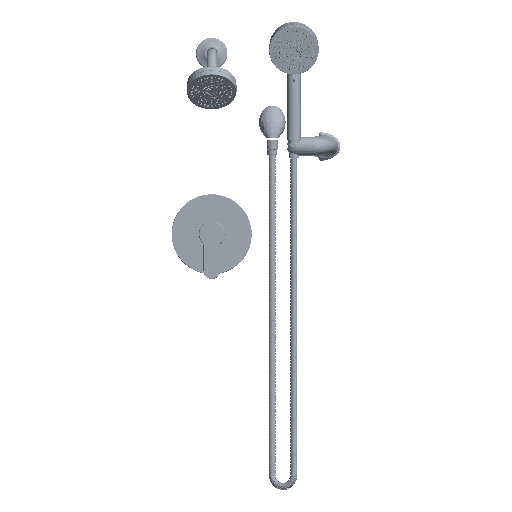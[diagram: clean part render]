
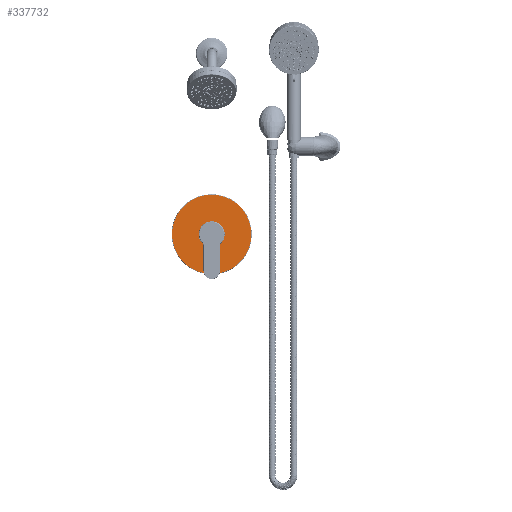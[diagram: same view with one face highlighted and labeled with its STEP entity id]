
A CAD part, top view. The second image highlights one B-rep face of the part: STEP entity #337732.
In plain terms, the highlighted planar face has unit normal (0, 0, 1).
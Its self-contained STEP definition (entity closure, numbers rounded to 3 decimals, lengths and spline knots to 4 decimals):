
#4974 = DIRECTION ( 'NONE',  ( 1., 0., 0. ) ) ;
#7506 = AXIS2_PLACEMENT_3D ( 'NONE', #191846, #298788, #56000 ) ;
#11723 = ORIENTED_EDGE ( 'NONE', *, *, #354908, .T. ) ;
#11799 = AXIS2_PLACEMENT_3D ( 'NONE', #115531, #64760, #4974 ) ;
#14279 = EDGE_LOOP ( 'NONE', ( #88251, #181864, #178228, #223493 ) ) ;
#39667 = FACE_BOUND ( 'NONE', #14279, .T. ) ;
#43212 = LINE ( 'NONE', #101169, #49355 ) ;
#49355 = VECTOR ( 'NONE', #150137, 39.3701 ) ;
#56000 = DIRECTION ( 'NONE',  ( 1., 0., 0. ) ) ;
#64760 = DIRECTION ( 'NONE',  ( 0., 0., 1. ) ) ;
#65924 = EDGE_CURVE ( 'NONE', #259164, #282145, #293227, .T. ) ;
#66091 = CIRCLE ( 'NONE', #164337, 3.1306 ) ;
#66873 = DIRECTION ( 'NONE',  ( 0., 0., 1. ) ) ;
#70438 = CARTESIAN_POINT ( 'NONE',  ( 1.9687, 3.7325, 5.2986 ) ) ;
#82253 = CARTESIAN_POINT ( 'NONE',  ( 1.8412, 2.4625, 5.2986 ) ) ;
#86419 = EDGE_CURVE ( 'NONE', #282145, #334782, #303284, .T. ) ;
#88251 = ORIENTED_EDGE ( 'NONE', *, *, #86419, .F. ) ;
#101169 = CARTESIAN_POINT ( 'NONE',  ( 2.0962, 2.4625, 5.2986 ) ) ;
#101732 = CARTESIAN_POINT ( 'NONE',  ( 1.9687, 3.7325, 5.2986 ) ) ;
#115531 = CARTESIAN_POINT ( 'NONE',  ( 1.9687, 2.4625, 5.2986 ) ) ;
#138374 = VECTOR ( 'NONE', #162027, 39.3701 ) ;
#140896 = DIRECTION ( 'NONE',  ( 0., 0., 1. ) ) ;
#150137 = DIRECTION ( 'NONE',  ( 0., 1., 0. ) ) ;
#150159 = DIRECTION ( 'NONE',  ( 1., 0., 0. ) ) ;
#150648 = CIRCLE ( 'NONE', #11799, 0.1275 ) ;
#160983 = CARTESIAN_POINT ( 'NONE',  ( -1.162, 3.7325, 5.2986 ) ) ;
#162027 = DIRECTION ( 'NONE',  ( 0., -1., 0. ) ) ;
#164337 = AXIS2_PLACEMENT_3D ( 'NONE', #101732, #349789, #212138 ) ;
#165150 = EDGE_CURVE ( 'NONE', #345451, #274112, #175342, .T. ) ;
#170018 = ORIENTED_EDGE ( 'NONE', *, *, #165150, .T. ) ;
#174019 = CARTESIAN_POINT ( 'NONE',  ( 1.8412, 2.715, 5.2986 ) ) ;
#175342 = CIRCLE ( 'NONE', #7506, 3.1306 ) ;
#178228 = ORIENTED_EDGE ( 'NONE', *, *, #315303, .F. ) ;
#179080 = FACE_OUTER_BOUND ( 'NONE', #184959, .T. ) ;
#181864 = ORIENTED_EDGE ( 'NONE', *, *, #65924, .F. ) ;
#184959 = EDGE_LOOP ( 'NONE', ( #11723, #170018 ) ) ;
#191846 = CARTESIAN_POINT ( 'NONE',  ( 1.9687, 3.7325, 5.2986 ) ) ;
#206251 = PLANE ( 'NONE',  #261031 ) ;
#212138 = DIRECTION ( 'NONE',  ( 1., 0., 0. ) ) ;
#223493 = ORIENTED_EDGE ( 'NONE', *, *, #333260, .F. ) ;
#241236 = AXIS2_PLACEMENT_3D ( 'NONE', #334623, #140896, #282053 ) ;
#253422 = VERTEX_POINT ( 'NONE', #349366 ) ;
#259164 = VERTEX_POINT ( 'NONE', #324793 ) ;
#261031 = AXIS2_PLACEMENT_3D ( 'NONE', #70438, #66873, #150159 ) ;
#274112 = VERTEX_POINT ( 'NONE', #281522 ) ;
#281522 = CARTESIAN_POINT ( 'NONE',  ( 5.0993, 3.7325, 5.2986 ) ) ;
#282053 = DIRECTION ( 'NONE',  ( 1., 0., 0. ) ) ;
#282145 = VERTEX_POINT ( 'NONE', #174019 ) ;
#293227 = CIRCLE ( 'NONE', #241236, 1.0255 ) ;
#298788 = DIRECTION ( 'NONE',  ( 0., 0., 1. ) ) ;
#303284 = LINE ( 'NONE', #333982, #138374 ) ;
#315303 = EDGE_CURVE ( 'NONE', #253422, #259164, #43212, .T. ) ;
#324793 = CARTESIAN_POINT ( 'NONE',  ( 2.0962, 2.715, 5.2986 ) ) ;
#333260 = EDGE_CURVE ( 'NONE', #334782, #253422, #150648, .T. ) ;
#333982 = CARTESIAN_POINT ( 'NONE',  ( 1.8412, 2.4625, 5.2986 ) ) ;
#334623 = CARTESIAN_POINT ( 'NONE',  ( 1.9687, 3.7325, 5.2986 ) ) ;
#334782 = VERTEX_POINT ( 'NONE', #82253 ) ;
#337732 = ADVANCED_FACE ( 'NONE', ( #39667, #179080 ), #206251, .T. ) ;
#345451 = VERTEX_POINT ( 'NONE', #160983 ) ;
#349366 = CARTESIAN_POINT ( 'NONE',  ( 2.0962, 2.4625, 5.2986 ) ) ;
#349789 = DIRECTION ( 'NONE',  ( 0., 0., 1. ) ) ;
#354908 = EDGE_CURVE ( 'NONE', #274112, #345451, #66091, .T. ) ;
